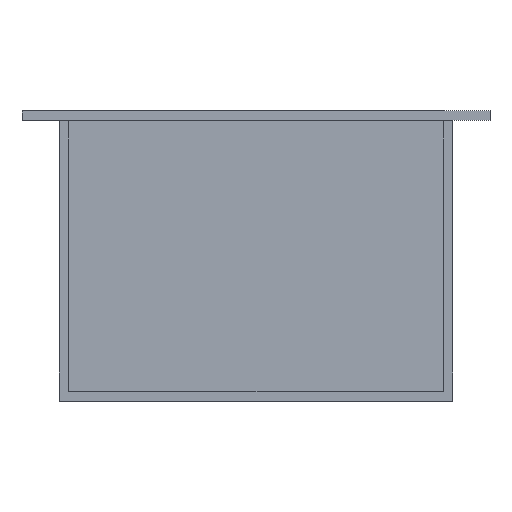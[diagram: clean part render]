
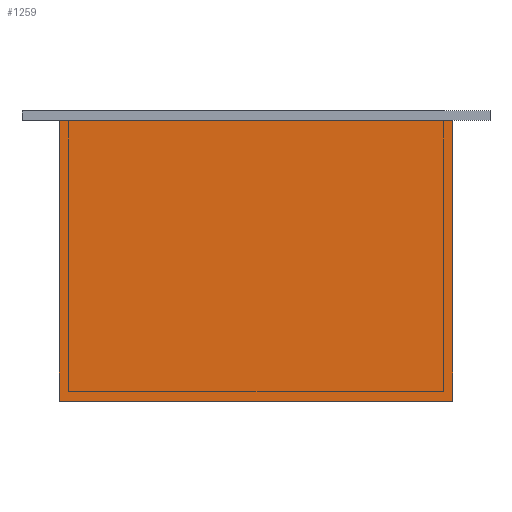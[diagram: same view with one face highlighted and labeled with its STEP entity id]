
A CAD part, front view. The second image highlights one B-rep face of the part: STEP entity #1259.
In plain terms, the highlighted planar face has unit normal (0, -1, 0).
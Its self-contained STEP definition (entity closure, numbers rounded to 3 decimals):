
#3 = EDGE_LOOP ( 'NONE', ( #1590, #1591, #1592, #1593 ) ) ;
#231 = DIRECTION ( 'NONE',  ( 0., 0., -1. ) ) ;
#232 = CARTESIAN_POINT ( 'NONE',  ( -42., 8., 60. ) ) ;
#432 = DIRECTION ( 'NONE',  ( -1., 0., 0. ) ) ;
#438 = CARTESIAN_POINT ( 'NONE',  ( -42., 8., 60. ) ) ;
#456 = DIRECTION ( 'NONE',  ( 1., 0., 0. ) ) ;
#457 = DIRECTION ( 'NONE',  ( 0., -1., 0. ) ) ;
#465 = CARTESIAN_POINT ( 'NONE',  ( -42., 8., 60. ) ) ;
#469 = PLANE ( 'NONE',  #1013 ) ;
#470 = DIRECTION ( 'NONE',  ( -1., 0., 0. ) ) ;
#473 = CARTESIAN_POINT ( 'NONE',  ( -42., 8., 0. ) ) ;
#616 = DIRECTION ( 'NONE',  ( 0., 0., -1. ) ) ;
#617 = CARTESIAN_POINT ( 'NONE',  ( 42., 8., 60. ) ) ;
#842 = CARTESIAN_POINT ( 'NONE',  ( -42., 8., 60. ) ) ;
#846 = CARTESIAN_POINT ( 'NONE',  ( -42., 8., 0. ) ) ;
#850 = VERTEX_POINT ( 'NONE', #846 ) ;
#851 = VERTEX_POINT ( 'NONE', #960 ) ;
#855 = VERTEX_POINT ( 'NONE', #958 ) ;
#857 = VERTEX_POINT ( 'NONE', #842 ) ;
#958 = CARTESIAN_POINT ( 'NONE',  ( 42., 8., 60. ) ) ;
#960 = CARTESIAN_POINT ( 'NONE',  ( 42., 8., 0. ) ) ;
#1013 = AXIS2_PLACEMENT_3D ( 'NONE', #465, #457, #456 ) ;
#1117 = EDGE_CURVE ( 'NONE', #855, #851, #1775, .T. ) ;
#1142 = EDGE_CURVE ( 'NONE', #851, #850, #1889, .T. ) ;
#1146 = EDGE_CURVE ( 'NONE', #855, #857, #1809, .T. ) ;
#1174 = EDGE_CURVE ( 'NONE', #857, #850, #1857, .T. ) ;
#1259 = ADVANCED_FACE ( 'NONE', ( #1356 ), #469, .T. ) ;
#1356 = FACE_OUTER_BOUND ( 'NONE', #3, .T. ) ;
#1590 = ORIENTED_EDGE ( 'NONE', *, *, #1142, .F. ) ;
#1591 = ORIENTED_EDGE ( 'NONE', *, *, #1117, .F. ) ;
#1592 = ORIENTED_EDGE ( 'NONE', *, *, #1146, .T. ) ;
#1593 = ORIENTED_EDGE ( 'NONE', *, *, #1174, .T. ) ;
#1775 = LINE ( 'NONE', #617, #1777 ) ;
#1777 = VECTOR ( 'NONE', #616, 1000. ) ;
#1807 = VECTOR ( 'NONE', #432, 1000. ) ;
#1809 = LINE ( 'NONE', #438, #1807 ) ;
#1856 = VECTOR ( 'NONE', #231, 1000. ) ;
#1857 = LINE ( 'NONE', #232, #1856 ) ;
#1889 = LINE ( 'NONE', #473, #1952 ) ;
#1952 = VECTOR ( 'NONE', #470, 1000. ) ;
